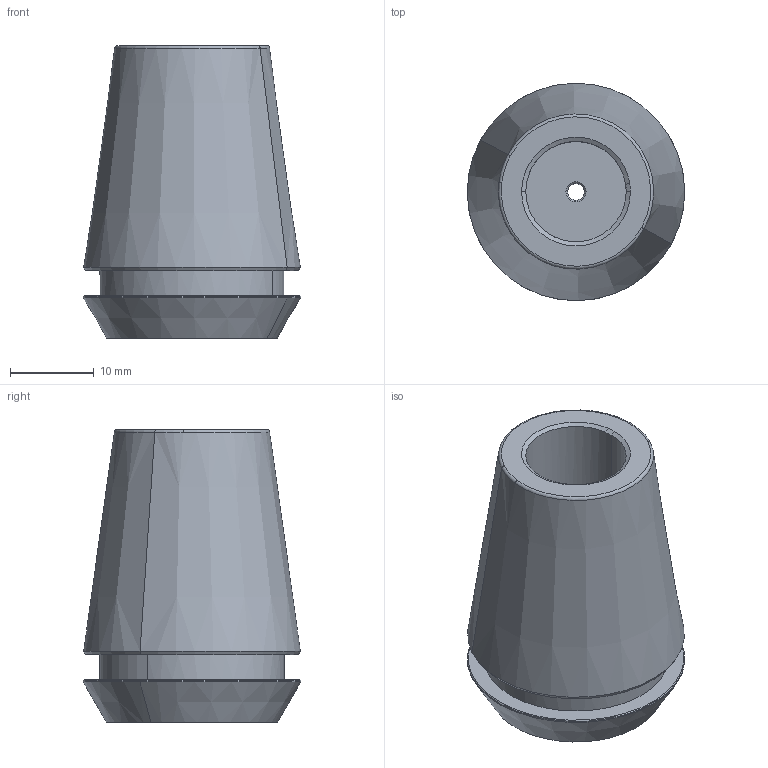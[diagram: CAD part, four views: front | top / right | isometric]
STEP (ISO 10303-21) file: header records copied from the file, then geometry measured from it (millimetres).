
FILE_DESCRIPTION(('CATIA V5 STEP','CAx-IF Rec.Pracs.--- Model Styling and Organization---1.2---2011-12-15'),'2;1');
FILE_NAME('\\nas01\drv1\utils\eitdev\rte\eit\transmagicconvert\db\out\635876075100223133\4511366 M.stp','2016-01-05T14:18:42+00:00',('none'),('none'),'CATIA Version 5 Release 21 SP 5 (IN-10)','CATIA V5 STEP AP214','none');
FILE_SCHEMA(('AUTOMOTIVE_DESIGN { 1 0 10303 214 1 1 1 1 }'));
Length unit declared in the file: millimetre
Products named in the file (1): ER25 SPR 1-2 AA
Bounding box: 25.99 x 25.99 x 35 mm (x, y, z)
Volume: 11915.4 mm3; surface area: 4142.9 mm2
Topology: 1 solids, 1 shells, 31 faces, 64 edges, 38 vertices
Faces by surface type: cone 15, cylinder 8, plane 5, torus 3
Entity records: 1101 total; most frequent: CARTESIAN_POINT 426, ORIENTED_EDGE 128, DIRECTION 125, AXIS2_PLACEMENT_3D 69, EDGE_CURVE 64, VERTEX_POINT 38, EDGE_LOOP 36, CIRCLE 34
